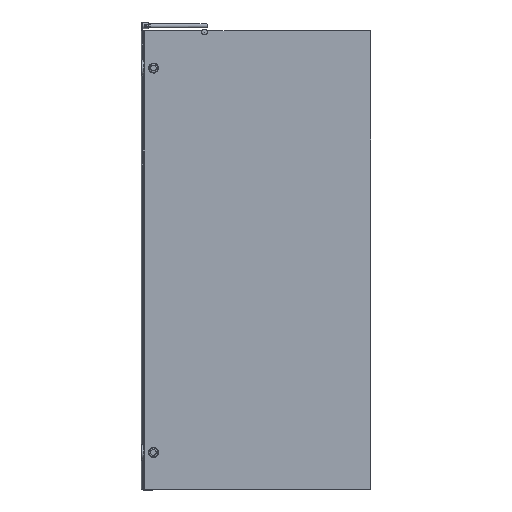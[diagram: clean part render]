
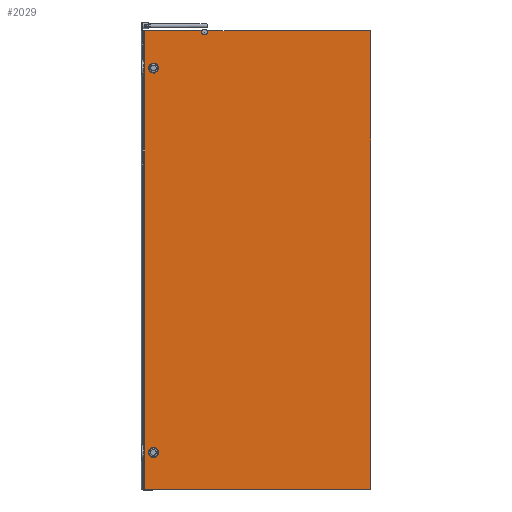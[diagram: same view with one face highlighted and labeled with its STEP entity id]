
A CAD part, front view. The second image highlights one B-rep face of the part: STEP entity #2029.
In plain terms, the highlighted planar face has unit normal (0, -1, 0).
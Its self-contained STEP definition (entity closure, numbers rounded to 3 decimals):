
#118=CIRCLE($,#2198,10.);
#119=CIRCLE($,#2199,0.1);
#232=FACE_OUTER_BOUND($,#348,.T.);
#348=EDGE_LOOP($,(#1428,#1429,#1430,#1431,#1432,#1433,#1434));
#456=LINE($,#3308,#625);
#479=LINE($,#3380,#648);
#480=LINE($,#3381,#649);
#481=LINE($,#3383,#650);
#482=LINE($,#3386,#651);
#625=VECTOR($,#2469,788.3);
#648=VECTOR($,#2530,198.774);
#649=VECTOR($,#2531,1600.);
#650=VECTOR($,#2532,1599.9);
#651=VECTOR($,#2535,571.566);
#834=VERTEX_POINT($,#3306);
#835=VERTEX_POINT($,#3307);
#863=VERTEX_POINT($,#3376);
#864=VERTEX_POINT($,#3377);
#865=VERTEX_POINT($,#3379);
#866=VERTEX_POINT($,#3382);
#867=VERTEX_POINT($,#3384);
#1043=EDGE_CURVE($,#834,#835,#456,.T.);
#1077=EDGE_CURVE($,#863,#864,#118,.T.);
#1078=EDGE_CURVE($,#865,#863,#479,.T.);
#1079=EDGE_CURVE($,#834,#865,#480,.T.);
#1080=EDGE_CURVE($,#866,#835,#481,.T.);
#1081=EDGE_CURVE($,#866,#867,#119,.T.);
#1082=EDGE_CURVE($,#864,#867,#482,.T.);
#1428=ORIENTED_EDGE($,*,*,#1077,.F.);
#1429=ORIENTED_EDGE($,*,*,#1078,.F.);
#1430=ORIENTED_EDGE($,*,*,#1079,.F.);
#1431=ORIENTED_EDGE($,*,*,#1043,.T.);
#1432=ORIENTED_EDGE($,*,*,#1080,.F.);
#1433=ORIENTED_EDGE($,*,*,#1081,.T.);
#1434=ORIENTED_EDGE($,*,*,#1082,.F.);
#1820=PLANE($,#2197);
#2029=ADVANCED_FACE($,(#232),#1820,.F.);
#2197=AXIS2_PLACEMENT_3D($,#3375,#2526,#2527);
#2198=AXIS2_PLACEMENT_3D($,#3378,#2528,#2529);
#2199=AXIS2_PLACEMENT_3D($,#3385,#2533,#2534);
#2469=DIRECTION($,(1.,0.,0.));
#2526=DIRECTION('center_axis',(0.,1.,0.));
#2527=DIRECTION('ref_axis',(1.,0.,0.));
#2528=DIRECTION('center_axis',(0.,-1.,0.));
#2529=DIRECTION('ref_axis',(0.,0.,
-1.));
#2530=DIRECTION($,(1.,0.,0.));
#2531=DIRECTION($,(0.,0.,1.));
#2532=DIRECTION($,(0.,0.,-1.));
#2533=DIRECTION('center_axis',(0.,-1.,0.));
#2534=DIRECTION('ref_axis',(0.707,0.,0.707));
#2535=DIRECTION($,(1.,0.,0.));
#3306=CARTESIAN_POINT('',(-136.567,-58.044,25.944));
#3307=CARTESIAN_POINT('',(651.733,-58.044,25.944));
#3308=CARTESIAN_POINT($,(-141.267,-58.044,25.944));
#3375=CARTESIAN_POINT('Origin',(-141.267,-58.044,1625.944));
#3376=CARTESIAN_POINT('',(62.207,-58.044,1625.944));
#3377=CARTESIAN_POINT('',(80.068,-58.044,1625.944));
#3378=CARTESIAN_POINT('Origin',(71.137,-58.044,1621.444));
#3379=CARTESIAN_POINT('',(-136.567,-58.044,1625.944));
#3380=CARTESIAN_POINT($,(-141.267,-58.044,1625.944));
#3381=CARTESIAN_POINT($,(-136.567,-58.044,825.944));
#3382=CARTESIAN_POINT('',(651.733,-58.044,1625.844));
#3383=CARTESIAN_POINT($,(651.733,-58.044,1625.944));
#3384=CARTESIAN_POINT('',(651.633,-58.044,1625.944));
#3385=CARTESIAN_POINT('Origin',(651.633,-58.044,1625.844));
#3386=CARTESIAN_POINT($,(-141.267,-58.044,1625.944));
